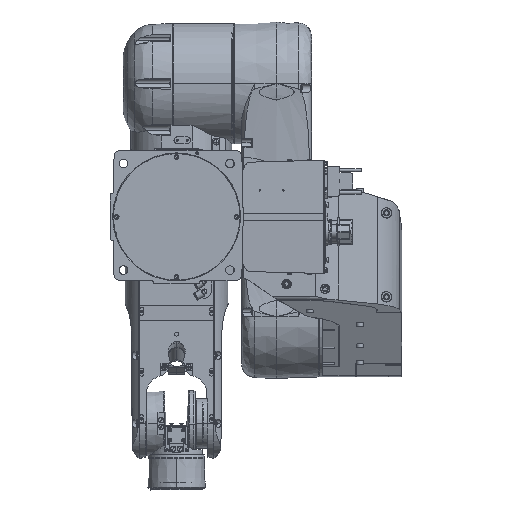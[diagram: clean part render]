
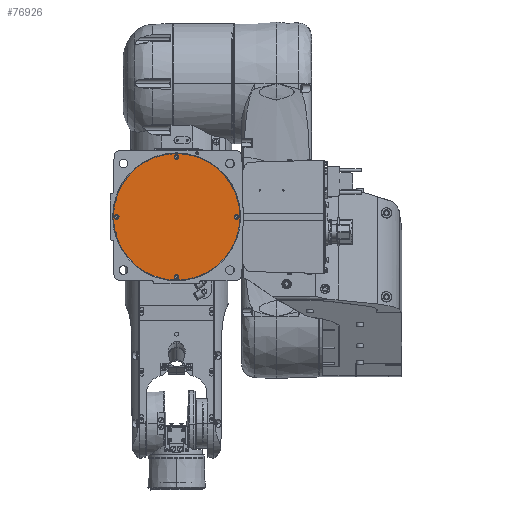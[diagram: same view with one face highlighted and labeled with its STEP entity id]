
A CAD part, front view. The second image highlights one B-rep face of the part: STEP entity #76926.
In plain terms, the highlighted planar face has unit normal (0, -1, 0).
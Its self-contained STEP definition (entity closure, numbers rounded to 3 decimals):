
#3940 = CIRCLE ( 'NONE', #185831, 3.5 ) ;
#5303 = EDGE_LOOP ( 'NONE', ( #161111, #74956 ) ) ;
#6091 = DIRECTION ( 'NONE',  ( 0., -1., 0. ) ) ;
#6912 = VERTEX_POINT ( 'NONE', #153407 ) ;
#10022 = ORIENTED_EDGE ( 'NONE', *, *, #140555, .T. ) ;
#11893 = EDGE_CURVE ( 'NONE', #40883, #163542, #3940, .T. ) ;
#15845 = AXIS2_PLACEMENT_3D ( 'NONE', #201903, #84120, #221697 ) ;
#15984 = CARTESIAN_POINT ( 'NONE',  ( 90., -163., 3.5 ) ) ;
#16681 = EDGE_CURVE ( 'NONE', #6912, #42346, #80287, .T. ) ;
#21311 = FACE_BOUND ( 'NONE', #119942, .T. ) ;
#23562 = VERTEX_POINT ( 'NONE', #135688 ) ;
#24314 = EDGE_CURVE ( 'NONE', #93598, #210810, #174875, .T. ) ;
#24358 = DIRECTION ( 'NONE',  ( 0., 1., 0. ) ) ;
#26296 = CIRCLE ( 'NONE', #33889, 95. ) ;
#27848 = DIRECTION ( 'NONE',  ( 0., 1., 0. ) ) ;
#28746 = CARTESIAN_POINT ( 'NONE',  ( 0., -163., 86.5 ) ) ;
#30140 = EDGE_CURVE ( 'NONE', #42346, #6912, #53677, .T. ) ;
#31740 = EDGE_LOOP ( 'NONE', ( #252765, #159842 ) ) ;
#33094 = VERTEX_POINT ( 'NONE', #64918 ) ;
#33889 = AXIS2_PLACEMENT_3D ( 'NONE', #124031, #6091, #143812 ) ;
#40883 = VERTEX_POINT ( 'NONE', #173744 ) ;
#41085 = CARTESIAN_POINT ( 'NONE',  ( 0., -163., -95. ) ) ;
#42346 = VERTEX_POINT ( 'NONE', #251795 ) ;
#49105 = CARTESIAN_POINT ( 'NONE',  ( 0., -163., 90. ) ) ;
#49184 = EDGE_CURVE ( 'NONE', #187826, #23562, #115912, .T. ) ;
#50566 = CARTESIAN_POINT ( 'NONE',  ( 0., -163., 0. ) ) ;
#52984 = AXIS2_PLACEMENT_3D ( 'NONE', #207143, #89445, #226982 ) ;
#53677 = CIRCLE ( 'NONE', #81867, 3.5 ) ;
#54923 = DIRECTION ( 'NONE',  ( 0., 1., 0. ) ) ;
#55992 = EDGE_CURVE ( 'NONE', #210810, #93598, #118067, .T. ) ;
#57438 = CIRCLE ( 'NONE', #77687, 3.5 ) ;
#59301 = AXIS2_PLACEMENT_3D ( 'NONE', #50566, #188170, #70366 ) ;
#61822 = AXIS2_PLACEMENT_3D ( 'NONE', #181096, #63209, #200876 ) ;
#63209 = DIRECTION ( 'NONE',  ( 0., 1., 0. ) ) ;
#64918 = CARTESIAN_POINT ( 'NONE',  ( 0., -163., -93.5 ) ) ;
#67443 = FACE_BOUND ( 'NONE', #77260, .T. ) ;
#68850 = DIRECTION ( 'NONE',  ( 0., 0., 1. ) ) ;
#70366 = DIRECTION ( 'NONE',  ( 0., 0., -1. ) ) ;
#74956 = ORIENTED_EDGE ( 'NONE', *, *, #49184, .T. ) ;
#75081 = AXIS2_PLACEMENT_3D ( 'NONE', #49105, #186666, #68850 ) ;
#75583 = CARTESIAN_POINT ( 'NONE',  ( 0., -163., 0. ) ) ;
#76926 = ADVANCED_FACE ( 'NONE', ( #21311, #67443, #224414, #119831, #172106 ), #89326, .T. ) ;
#77260 = EDGE_LOOP ( 'NONE', ( #246511, #254251 ) ) ;
#77687 = AXIS2_PLACEMENT_3D ( 'NONE', #98748, #236368, #118503 ) ;
#80046 = CIRCLE ( 'NONE', #15845, 3.5 ) ;
#80287 = CIRCLE ( 'NONE', #197883, 3.5 ) ;
#80524 = EDGE_CURVE ( 'NONE', #226518, #33094, #57438, .T. ) ;
#81867 = AXIS2_PLACEMENT_3D ( 'NONE', #142299, #24358, #161968 ) ;
#82819 = CARTESIAN_POINT ( 'NONE',  ( 0., -163., -86.5 ) ) ;
#84120 = DIRECTION ( 'NONE',  ( 0., 1., 0. ) ) ;
#85325 = AXIS2_PLACEMENT_3D ( 'NONE', #75583, #213119, #95420 ) ;
#89326 = PLANE ( 'NONE',  #59301 ) ;
#89445 = DIRECTION ( 'NONE',  ( 0., 1., 0. ) ) ;
#93598 = VERTEX_POINT ( 'NONE', #149981 ) ;
#95420 = DIRECTION ( 'NONE',  ( 0., 0., 1. ) ) ;
#96872 = ORIENTED_EDGE ( 'NONE', *, *, #24314, .T. ) ;
#98748 = CARTESIAN_POINT ( 'NONE',  ( 0., -163., -90. ) ) ;
#107124 = ORIENTED_EDGE ( 'NONE', *, *, #80524, .T. ) ;
#115912 = CIRCLE ( 'NONE', #85325, 95. ) ;
#118067 = CIRCLE ( 'NONE', #52984, 3.5 ) ;
#118503 = DIRECTION ( 'NONE',  ( 0., 0., 1. ) ) ;
#119831 = FACE_BOUND ( 'NONE', #127004, .T. ) ;
#119942 = EDGE_LOOP ( 'NONE', ( #107124, #10022 ) ) ;
#124031 = CARTESIAN_POINT ( 'NONE',  ( 0., -163., 0. ) ) ;
#127004 = EDGE_LOOP ( 'NONE', ( #209701, #96872 ) ) ;
#135309 = EDGE_CURVE ( 'NONE', #23562, #187826, #26296, .T. ) ;
#135688 = CARTESIAN_POINT ( 'NONE',  ( 0., -163., 95. ) ) ;
#140555 = EDGE_CURVE ( 'NONE', #33094, #226518, #80046, .T. ) ;
#142299 = CARTESIAN_POINT ( 'NONE',  ( -90., -163., 0. ) ) ;
#143812 = DIRECTION ( 'NONE',  ( 0., 0., 1. ) ) ;
#145760 = CARTESIAN_POINT ( 'NONE',  ( -90., -163., 0. ) ) ;
#149981 = CARTESIAN_POINT ( 'NONE',  ( 90., -163., -3.5 ) ) ;
#153407 = CARTESIAN_POINT ( 'NONE',  ( -90., -163., 3.5 ) ) ;
#159842 = ORIENTED_EDGE ( 'NONE', *, *, #193284, .T. ) ;
#161111 = ORIENTED_EDGE ( 'NONE', *, *, #135309, .T. ) ;
#161968 = DIRECTION ( 'NONE',  ( 0., 0., 1. ) ) ;
#163542 = VERTEX_POINT ( 'NONE', #28746 ) ;
#165405 = DIRECTION ( 'NONE',  ( 0., 0., 1. ) ) ;
#172106 = FACE_OUTER_BOUND ( 'NONE', #5303, .T. ) ;
#172700 = CARTESIAN_POINT ( 'NONE',  ( 0., -163., 90. ) ) ;
#173744 = CARTESIAN_POINT ( 'NONE',  ( 0., -163., 93.5 ) ) ;
#174875 = CIRCLE ( 'NONE', #61822, 3.5 ) ;
#181096 = CARTESIAN_POINT ( 'NONE',  ( 90., -163., 0. ) ) ;
#183085 = CIRCLE ( 'NONE', #75081, 3.5 ) ;
#185831 = AXIS2_PLACEMENT_3D ( 'NONE', #172700, #54923, #192525 ) ;
#186666 = DIRECTION ( 'NONE',  ( 0., 1., 0. ) ) ;
#187826 = VERTEX_POINT ( 'NONE', #41085 ) ;
#188170 = DIRECTION ( 'NONE',  ( 0., -1., 0. ) ) ;
#192525 = DIRECTION ( 'NONE',  ( 0., 0., 1. ) ) ;
#193284 = EDGE_CURVE ( 'NONE', #163542, #40883, #183085, .T. ) ;
#197883 = AXIS2_PLACEMENT_3D ( 'NONE', #145760, #27848, #165405 ) ;
#200876 = DIRECTION ( 'NONE',  ( 0., 0., 1. ) ) ;
#201903 = CARTESIAN_POINT ( 'NONE',  ( 0., -163., -90. ) ) ;
#207143 = CARTESIAN_POINT ( 'NONE',  ( 90., -163., 0. ) ) ;
#209701 = ORIENTED_EDGE ( 'NONE', *, *, #55992, .T. ) ;
#210810 = VERTEX_POINT ( 'NONE', #15984 ) ;
#213119 = DIRECTION ( 'NONE',  ( 0., -1., 0. ) ) ;
#221697 = DIRECTION ( 'NONE',  ( 0., 0., 1. ) ) ;
#224414 = FACE_BOUND ( 'NONE', #31740, .T. ) ;
#226518 = VERTEX_POINT ( 'NONE', #82819 ) ;
#226982 = DIRECTION ( 'NONE',  ( 0., 0., 1. ) ) ;
#236368 = DIRECTION ( 'NONE',  ( 0., 1., 0. ) ) ;
#246511 = ORIENTED_EDGE ( 'NONE', *, *, #16681, .T. ) ;
#251795 = CARTESIAN_POINT ( 'NONE',  ( -90., -163., -3.5 ) ) ;
#252765 = ORIENTED_EDGE ( 'NONE', *, *, #11893, .T. ) ;
#254251 = ORIENTED_EDGE ( 'NONE', *, *, #30140, .T. ) ;
